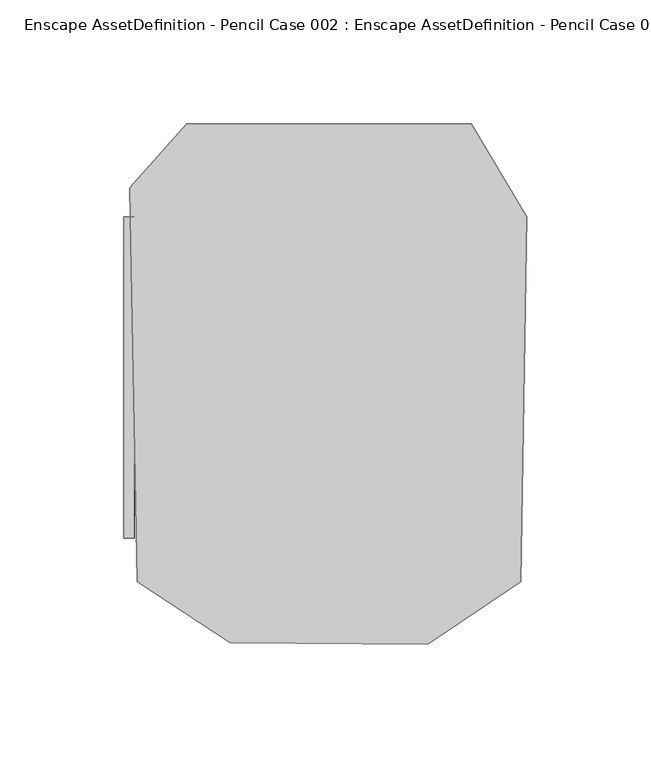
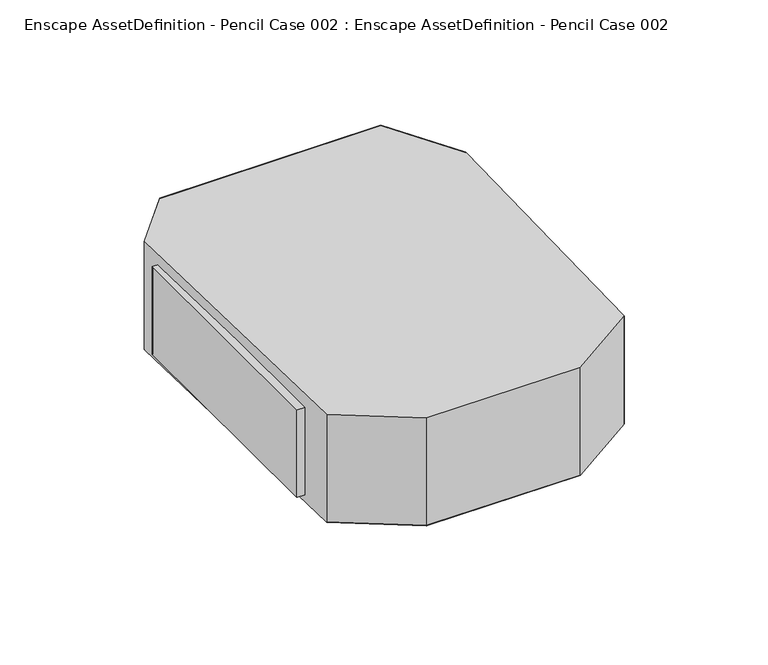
"""IFC4 building model written with IfcOpenShell, lengths in millimetres: geographic element geometry, Enscape AssetDefinition - Pencil Case 002 : Enscape AssetDefinition - Pencil Case 002."""

from ifc_helpers import new_model, si_unit, origin, place, context, project, spatial, triangles, source, transform, mapped, element, save


def enscape_assetdefinition_pencil_case_002_enscape_daa552db(model_context):
    return source(origin(), model_context, "Body", "Tessellation", [
        triangles([(40.0020005, -107.9509962, 59.4869985), (-39.9979992, -107.3509965, 59.4869985), (-39.9979992, -107.3509965, -0.001), (-77.4979949, -82.6560013, -0.001), (-77.4979949, -82.6560013, 59.4869985), (77.5020008, -82.6560013, 59.4869985), (-80.7060022, 76.4380033, 59.4869985), (-57.4979984, 102.3439983, -0.001), (-80.7060022, 76.4380033, -0.001), (40.0020005, -107.9509962, -0.001), (77.5020008, -82.6560013, -0.001), (80.0020027, 64.843998, 59.4869985), (80.0020027, 64.843998, -0.001), (-57.4979984, 102.3439983, 59.4869985), (57.5019998, 102.3439983, -0.001), (57.5019998, 102.3439983, 59.4869985), (-83.0389993, 64.843998, 5.0309997), (-78.8869999, 64.843998, 5.0309997), (-78.8869999, -65.1559975, 5.0309997), (-83.0389993, -65.1559975, 5.0309997), (-83.0389993, -65.1559975, 53.3799994), (-78.8869999, -65.1559975, 53.3799994), (-83.0389993, 64.843998, 53.3799994), (-78.8869999, 64.843998, 53.3799994)], [[21, 22, 24], [24, 23, 21], [17, 23, 24], [24, 18, 17], [22, 21, 20], [20, 21, 23], [23, 17, 20], [20, 19, 22], [17, 18, 19], [19, 20, 17], [13, 15, 16], [16, 12, 13], [14, 16, 15], [6, 12, 14], [12, 16, 14], [6, 14, 7], [7, 14, 8], [15, 8, 14], [8, 15, 13], [12, 6, 11], [11, 13, 12], [10, 11, 6], [11, 8, 13], [8, 9, 7], [11, 9, 8], [5, 7, 9], [6, 7, 5], [9, 4, 5], [11, 4, 9], [11, 3, 4], [11, 10, 3], [6, 1, 10], [3, 10, 1], [2, 5, 4], [4, 3, 2], [1, 2, 3], [2, 6, 5], [2, 1, 6]], closed=False),
    ])


if __name__ == "__main__":
    model = new_model("IFC4")
    model_context = context("Model", 3, world=origin())
    ifc_project = project(units=[si_unit("LENGTHUNIT", "METRE", prefix="MILLI")], contexts=[model_context])
    site = spatial("IfcSite", under=ifc_project)
    building = spatial("IfcBuilding", under=site)
    placement = place(None, origin())
    enscape_assetdefinition_pencil_case_002_enscape_shape = enscape_assetdefinition_pencil_case_002_enscape_daa552db(model_context)
    element("IfcGeographicElement", 1, ObjectType="Enscape AssetDefinition - Pencil Case 002 : Enscape AssetDefinition - Pencil Case 002", at=placement, inside=building, context=model_context, shape_type="MappedRepresentation", body=[
        mapped(enscape_assetdefinition_pencil_case_002_enscape_shape, transform((0.0, 0.0, 0.0), x_axis=(1.0, 0.0, 0.0), y_axis=(0.0, 1.0, 0.0), z_axis=(0.0, 0.0, 1.0))),
    ])
    save(model, "model.ifc")
